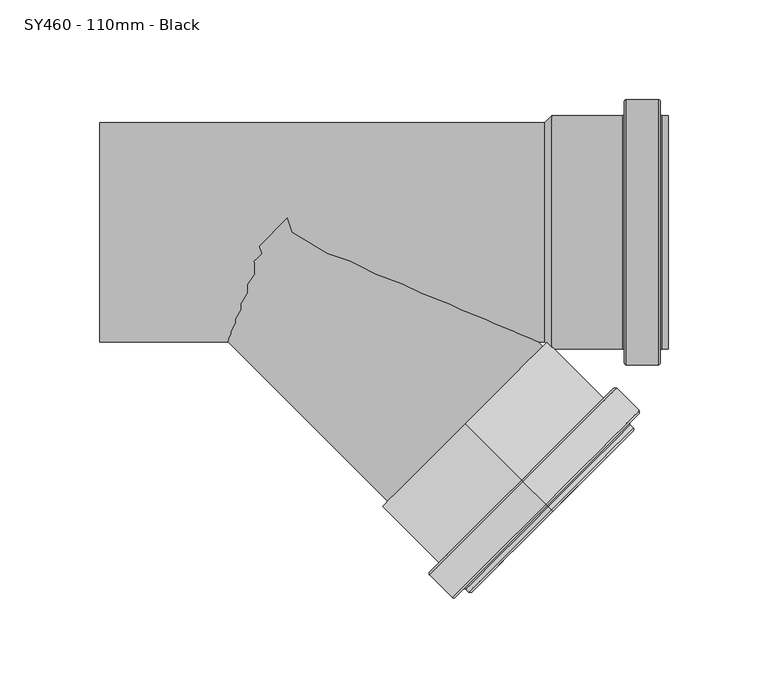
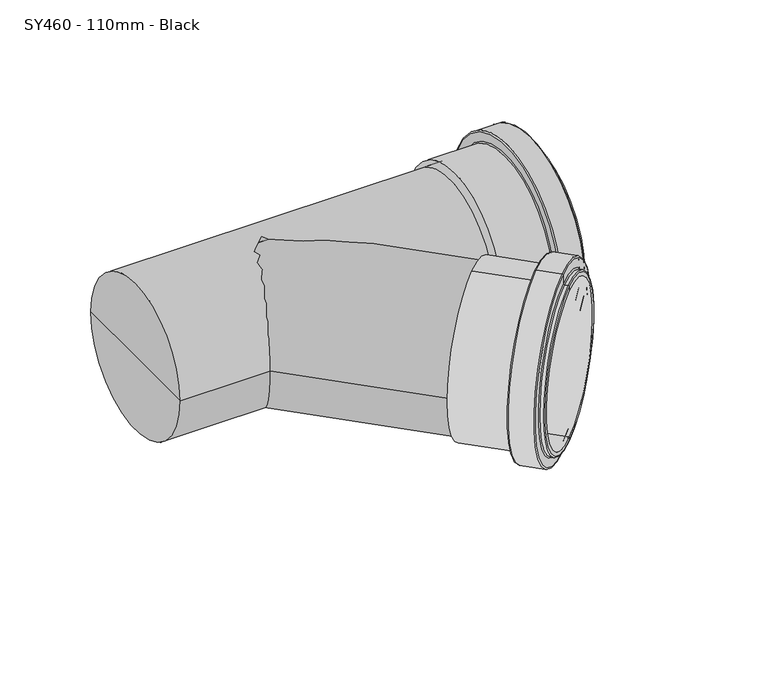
"""IFC4 building model written with IfcOpenShell, lengths in millimetres: pipe fitting geometry, MarleyPlumbingAndDrainage_PipeFitting_EqualBranch45PushFit : SY460 - 110mm - Black."""

import ifcopenshell
import ifcopenshell.guid

model = None  # the IFC model being written
_history = None  # IfcOwnerHistory: only IFC2X3 demands one
_inside = {}  # id of a spatial element -> (the spatial element, [elements in it])
_under = {}  # id of a project, library or spatial element -> (it, [spatial elements below it])
_declared = {}  # id of a project -> (the project, [libraries it declares])
_typed = {}  # id of a type object -> (the type object, [elements of that type])
_made_of = {}  # id of a material, layer set ... -> (it, [elements and type objects made of it])


def new_model(schema):
    """Start an empty IFC model of exactly this schema.

    Asked for "IFC4X3", IfcOpenShell would pick the latest addendum, in which some entities
    have other attributes; the version numbers below select the first issue.
    IFC2X3 requires an IfcOwnerHistory on every rooted entity: one is made here for all.
    """
    global model, _history
    if schema == "IFC4X3":
        model = ifcopenshell.file(schema_version=(4, 3, 0, 0))
    else:
        model = ifcopenshell.file(schema=schema)
    _inside.clear()
    _under.clear()
    _declared.clear()
    _typed.clear()
    _made_of.clear()
    _history = None
    if model.schema == "IFC2X3":
        org = make("IfcOrganization", Name="unknown")
        user = make(
            "IfcPersonAndOrganization",
            ThePerson=make("IfcPerson", FamilyName="unknown"),
            TheOrganization=org,
        )
        app = make(
            "IfcApplication",
            ApplicationDeveloper=org,
            Version="unknown",
            ApplicationFullName="unknown",
            ApplicationIdentifier="unknown",
        )
        _history = make(
            "IfcOwnerHistory",
            OwningUser=user,
            OwningApplication=app,
            ChangeAction="ADDED",
            CreationDate=0,
        )
    return model


def make(cls, **values):
    """One entity of the class cls with the attributes given. An attribute that is None is left unset."""
    return model.create_entity(
        cls, **{name: value for name, value in values.items() if value is not None}
    )


def rooted(cls, **values):
    """An entity with a GlobalId (a new one), such as an element, a storey or a relation."""
    return make(cls, GlobalId=ifcopenshell.guid.new(), OwnerHistory=_history, **values)


def si_unit(unit_type, name, prefix=None):
    """IfcSIUnit, for example si_unit("LENGTHUNIT", "METRE", prefix="MILLI")."""
    return make("IfcSIUnit", UnitType=unit_type, Prefix=prefix, Name=name)


def assignment(units):
    """IfcUnitAssignment: the units of a project."""
    return None if units is None else make("IfcUnitAssignment", Units=units)


def point(xyz):
    """IfcCartesianPoint."""
    return None if xyz is None else make("IfcCartesianPoint", Coordinates=xyz)


def direction(xyz):
    """IfcDirection."""
    return None if xyz is None else make("IfcDirection", DirectionRatios=xyz)


def frame(location, z_axis=None, x_axis=None):
    """IfcAxis2Placement3D, a coordinate frame: its origin and axes. An axis left out is left unset."""
    return make(
        "IfcAxis2Placement3D",
        Location=point(location),
        Axis=direction(z_axis),
        RefDirection=direction(x_axis),
    )


def frame_2d(location, x_axis=None):
    """IfcAxis2Placement2D, a coordinate frame in the plane: its origin and x axis."""
    return make(
        "IfcAxis2Placement2D", Location=point(location), RefDirection=direction(x_axis)
    )


def origin():
    """The frame at (0, 0, 0) with its axes left unset."""
    return frame((0.0, 0.0, 0.0))


def origin_2d():
    """The frame at (0, 0) in the plane with its x axis left unset."""
    return frame_2d((0.0, 0.0))


def place(relative_to, where):
    """IfcLocalPlacement: puts the frame where relative to a parent placement (None: the world)."""
    return make(
        "IfcLocalPlacement", PlacementRelTo=relative_to, RelativePlacement=where
    )


def context(
    kind, dimensions, precision=None, world=None, true_north=None, identifier=None
):
    """IfcGeometricRepresentationContext, for example the 3D "Model" context."""
    return make(
        "IfcGeometricRepresentationContext",
        ContextIdentifier=identifier,
        ContextType=kind,
        CoordinateSpaceDimension=dimensions,
        Precision=precision,
        WorldCoordinateSystem=world,
        TrueNorth=true_north,
    )


def project(units=None, contexts=None):
    """IfcProject with its units and contexts."""
    return rooted(
        "IfcProject",
        Name="project",
        RepresentationContexts=contexts,
        UnitsInContext=assignment(units),
    )


def spatial(cls, under=None, at=None, **own):
    """A site, building, storey or space (cls), placed at a placement, below another one or the project."""
    s = rooted(cls, ObjectPlacement=at, **own)
    if under is not None:
        _under.setdefault(under.id(), (under, []))[1].append(s)
    return s


def polyline(points):
    """IfcPolyline through the points."""
    return make("IfcPolyline", Points=[point(p) for p in points])


def circle_curve(where, radius):
    """IfcCircle in the frame where."""
    return make("IfcCircle", Position=where, Radius=radius)


def ellipse_curve(where, semi_axis1, semi_axis2):
    """IfcEllipse in the frame where."""
    return make(
        "IfcEllipse", Position=where, SemiAxis1=semi_axis1, SemiAxis2=semi_axis2
    )


def trimmed(basis, trim1, trim2, sense, master):
    """IfcTrimmedCurve: the piece of a basis curve between two trims."""
    return make(
        "IfcTrimmedCurve",
        BasisCurve=basis,
        Trim1=trim1,
        Trim2=trim2,
        SenseAgreement=sense,
        MasterRepresentation=master,
    )


def segment(curve, same_sense, transition):
    """IfcCompositeCurveSegment."""
    return make(
        "IfcCompositeCurveSegment",
        Transition=transition,
        SameSense=same_sense,
        ParentCurve=curve,
    )


def composite_curve(segments, self_intersect=None):
    """IfcCompositeCurve: segments joined end to end."""
    return make("IfcCompositeCurve", Segments=segments, SelfIntersect=self_intersect)


def outline(outer, holes=None, kind="AREA"):
    """IfcArbitraryClosedProfileDef: a profile drawn as a closed curve; with holes, ...WithVoids."""
    if holes is None:
        return make("IfcArbitraryClosedProfileDef", ProfileType=kind, OuterCurve=outer)
    return make(
        "IfcArbitraryProfileDefWithVoids",
        ProfileType=kind,
        OuterCurve=outer,
        InnerCurves=holes,
    )


def extrude(swept, where, along, depth):
    """IfcExtrudedAreaSolid: the profile swept, set in the frame where, extruded along a direction by depth."""
    return make(
        "IfcExtrudedAreaSolid",
        SweptArea=swept,
        Position=where,
        ExtrudedDirection=direction(along),
        Depth=depth,
    )


def shape(context_of_items, identifier, shape_type, items):
    """IfcShapeRepresentation: the items that make up one representation, for example the "Body"."""
    return make(
        "IfcShapeRepresentation",
        ContextOfItems=context_of_items,
        RepresentationIdentifier=identifier,
        RepresentationType=shape_type,
        Items=items,
    )


def source(mapping_origin, context_of_items, identifier, shape_type, items):
    """IfcRepresentationMap: a shape defined once, which mapped items show again and again."""
    return make(
        "IfcRepresentationMap",
        MappingOrigin=mapping_origin,
        MappedRepresentation=shape(context_of_items, identifier, shape_type, items),
    )


def transform(
    local_origin,
    x_axis=None,
    y_axis=None,
    z_axis=None,
    scale=None,
    scale2=None,
    scale3=None,
    uniform=True,
):
    """IfcCartesianTransformationOperator3D, or its non-uniform kind. x_axis, y_axis, z_axis: its Axis1, 2, 3."""
    if uniform:
        return make(
            "IfcCartesianTransformationOperator3D",
            Axis1=direction(x_axis),
            Axis2=direction(y_axis),
            LocalOrigin=point(local_origin),
            Scale=scale,
            Axis3=direction(z_axis),
        )
    return make(
        "IfcCartesianTransformationOperator3DnonUniform",
        Axis1=direction(x_axis),
        Axis2=direction(y_axis),
        LocalOrigin=point(local_origin),
        Scale=scale,
        Axis3=direction(z_axis),
        Scale2=scale2,
        Scale3=scale3,
    )


def mapped(mapping_source, mapping_target):
    """IfcMappedItem: shows the shape of a source again, moved by a transform."""
    return make(
        "IfcMappedItem", MappingSource=mapping_source, MappingTarget=mapping_target
    )


def made_of(thing, what):
    """Note that an element or type object is made of a material, layer set ...; save() writes the relation."""
    if what is not None:
        _made_of.setdefault(what.id(), (what, []))[1].append(thing)
    return thing


def element(
    cls,
    number,
    at=None,
    inside=None,
    cuts=None,
    type_object=None,
    material=None,
    context=None,
    identifier="Body",
    shape_type=None,
    held_by="IfcProductDefinitionShape",
    body=None,
    shapes=None,
    **own,
):
    """One element of the class cls, such as IfcWall. Its Tag is "e" and its number.

    at: its placement. inside: the storey or other place that contains it. cuts: it is an
    opening in that element (IfcRelVoidsElement). A single representation is given by context,
    identifier, shape_type and body (its items); several are given by shapes. held_by: the class
    of the entity that holds the representations. save() writes the other relations.
    """
    e = rooted(cls, Tag="e%d" % number, ObjectPlacement=at, **own)
    if body is not None:
        shapes = [shape(context, identifier, shape_type, body)]
    if shapes is not None:
        e.Representation = make(held_by, Representations=shapes)
    if inside is not None:
        _inside.setdefault(inside.id(), (inside, []))[1].append(e)
    if cuts is not None:
        rooted(
            "IfcRelVoidsElement", RelatingBuildingElement=cuts, RelatedOpeningElement=e
        )
    if type_object is not None:
        _typed.setdefault(type_object.id(), (type_object, []))[1].append(e)
    return made_of(e, material)


def aggregate(whole, parts):
    """IfcRelAggregates: a whole, such as a stair, and the parts it consists of."""
    return rooted("IfcRelAggregates", RelatingObject=whole, RelatedObjects=parts)


def save(model, path):
    """Write the relations noted so far, then the file.

    IfcRelAggregates (storeys below a building ...), IfcRelContainedInSpatialStructure (elements
    in a storey), IfcRelDefinesByType, IfcRelAssociatesMaterial and IfcRelDeclares: one each for
    every whole, place, type object, material and project.
    """
    for whole, parts in _under.values():
        aggregate(whole, parts)
    for where, things in _inside.values():
        rooted(
            "IfcRelContainedInSpatialStructure",
            RelatedElements=things,
            RelatingStructure=where,
        )
    for kind, things in _typed.values():
        rooted("IfcRelDefinesByType", RelatedObjects=things, RelatingType=kind)
    for what, things in _made_of.values():
        rooted("IfcRelAssociatesMaterial", RelatedObjects=things, RelatingMaterial=what)
    for by, libraries in _declared.values():
        rooted("IfcRelDeclares", RelatingContext=by, RelatedDefinitions=libraries)
    model.write(path)


def plane_surface(at):
    """IfcPlane: the flat surface through the origin of the frame at, square to its z axis."""
    return make("IfcPlane", Position=at)


def cylinder_surface(at, radius):
    """IfcCylindricalSurface: all points at the distance radius from the z axis of the frame at."""
    return make("IfcCylindricalSurface", Position=at, Radius=radius)


def revolved_surface(curve, axis_point, axis_direction):
    """IfcSurfaceOfRevolution: the curve turned about the line through axis_point along axis_direction."""
    return make(
        "IfcSurfaceOfRevolution",
        SweptCurve=make("IfcArbitraryOpenProfileDef", ProfileType="CURVE", Curve=curve),
        AxisPosition=make("IfcAxis1Placement", Location=point(axis_point), Axis=direction(axis_direction)),
    )


def advanced_brep(points, edges, surfaces, faces):
    """IfcAdvancedBrep: a solid bounded by faces that lie on surfaces and meet in shared edges.

    An edge is (start, end): straight between two places in points (the first is 0);
    or (start, end, curve); or (start, end, curve, False) where it runs against its curve.
    A face is (place in surfaces, loops), or (place, loops, False) where it looks against
    its surface's normal. A loop lists edges by number (the first is 1), with a minus sign
    where the edge is run from its end to its start. The first loop is the outer one.
    """
    corners = [point(p) for p in points]
    vertices = [make("IfcVertexPoint", VertexGeometry=c) for c in corners]
    made = []
    for start, end, *more in edges:
        made.append(
            make(
                "IfcEdgeCurve",
                EdgeStart=vertices[start],
                EdgeEnd=vertices[end],
                EdgeGeometry=more[0] if more else make("IfcPolyline", Points=[corners[start], corners[end]]),
                SameSense=more[1] if len(more) > 1 else True,
            )
        )
    hull = []
    for where, loops, *sense in faces:
        bounds = []
        for j, loop in enumerate(loops):
            ring = [make("IfcOrientedEdge", EdgeElement=made[abs(k) - 1], Orientation=k > 0) for k in loop]
            bounds.append(
                make(
                    "IfcFaceOuterBound" if j == 0 else "IfcFaceBound",
                    Bound=make("IfcEdgeLoop", EdgeList=ring),
                    Orientation=True,
                )
            )
        hull.append(make("IfcAdvancedFace", Bounds=bounds, FaceSurface=surfaces[where], SameSense=sense[0] if sense else True))
    return make("IfcAdvancedBrep", Outer=make("IfcClosedShell", CfsFaces=hull))


def sy460_110mm_black_cbd33f96(model_context):
    return source(origin(), model_context, "Body", "SolidModel", [
        advanced_brep(
        [(81.3411404, -96.1665222, -58.5), (81.3411404, -96.1665222, 58.5), (81.3411404, -96.1665222, 55.0), (81.3411404, -96.1665222, -55.0), (109.6254117, -124.4507935, -58.5), (109.6254117, -124.4507935, 58.5), (109.6254117, -124.4507935, -65.5), (109.6254117, -124.4507935, 65.5), (121.6462269, -136.4716088, -66.5), (121.6462269, -136.4716088, 66.5), (110.3325184, -125.1579003, 66.5), (110.3325184, -125.1579003, -66.5), (122.3533337, -137.1787156, -59.5), (122.3533337, -137.1787156, 59.5), (122.3533337, -137.1787156, 65.5), (122.3533337, -137.1787156, -65.5), (124.4746541, -139.3000359, -58.5), (124.4746541, -139.3000359, 58.5), (123.0604405, -137.8858223, 58.5), (123.0604405, -137.8858223, -58.5), (125.1817609, -140.0071427, -55.0), (125.1817609, -140.0071427, 55.0), (125.1817609, -140.0071427, 57.5), (125.1817609, -140.0071427, -57.5)],
        [
            (0, 1, circle_curve(frame((81.3411404, -96.1665222, 0.0), z_axis=(-0.7071067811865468, 0.7071067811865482, 0.0), x_axis=(0.0, 0.0, 1.0000000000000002)), 58.5)),
            (1, 2),
            (2, 3, circle_curve(frame((81.3411404, -96.1665222, 0.0), z_axis=(0.7071067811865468, -0.7071067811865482, 0.0), x_axis=(0.0, 0.0, 1.0000000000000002)), 55.0)),
            (3, 0),
            (1, 0, circle_curve(frame((81.3411404, -96.1665222, 0.0), z_axis=(-0.7071067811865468, 0.7071067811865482, 0.0), x_axis=(0.0, 0.0, 1.0000000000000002)), 58.5)),
            (3, 2, circle_curve(frame((81.3411404, -96.1665222, 0.0), z_axis=(0.7071067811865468, -0.7071067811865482, 0.0), x_axis=(0.0, 0.0, 1.0000000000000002)), 55.0)),
            (4, 5, circle_curve(frame((109.6254117, -124.4507935, 0.0), z_axis=(-0.7071067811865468, 0.7071067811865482, 0.0), x_axis=(0.0, 0.0, 1.0000000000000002)), 58.5)),
            (5, 1),
            (0, 4),
            (5, 4, circle_curve(frame((109.6254117, -124.4507935, 0.0), z_axis=(-0.7071067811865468, 0.7071067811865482, 0.0), x_axis=(0.0, 0.0, 1.0000000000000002)), 58.5)),
            (6, 7, circle_curve(frame((109.6254117, -124.4507935, 0.0), z_axis=(-0.7071067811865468, 0.7071067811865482, 0.0), x_axis=(0.0, 0.0, 1.0000000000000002)), 65.5)),
            (7, 5),
            (4, 6),
            (7, 6, circle_curve(frame((109.6254117, -124.4507935, 0.0), z_axis=(-0.7071067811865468, 0.7071067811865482, 0.0), x_axis=(0.0, 0.0, 1.0000000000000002)), 65.5)),
            (8, 9, circle_curve(frame((121.6462269, -136.4716088, 0.0), z_axis=(-0.7071067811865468, 0.7071067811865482, 0.0), x_axis=(0.0, 0.0, 1.0000000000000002)), 66.5)),
            (9, 10),
            (10, 11, circle_curve(frame((110.3325184, -125.1579003, 0.0), z_axis=(0.7071067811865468, -0.7071067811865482, 0.0), x_axis=(0.0, 0.0, 1.0000000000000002)), 66.5)),
            (11, 8),
            (9, 8, circle_curve(frame((121.6462269, -136.4716088, 0.0), z_axis=(-0.7071067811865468, 0.7071067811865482, 0.0), x_axis=(0.0, 0.0, 1.0000000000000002)), 66.5)),
            (11, 10, circle_curve(frame((110.3325184, -125.1579003, 0.0), z_axis=(0.7071067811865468, -0.7071067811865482, 0.0), x_axis=(0.0, 0.0, 1.0000000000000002)), 66.5)),
            (12, 13, circle_curve(frame((122.3533337, -137.1787156, 0.0), z_axis=(-0.7071067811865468, 0.7071067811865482, 0.0), x_axis=(0.0, 0.0, 1.0000000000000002)), 59.5)),
            (13, 14),
            (14, 15, circle_curve(frame((122.3533337, -137.1787156, 0.0), z_axis=(0.7071067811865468, -0.7071067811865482, 0.0), x_axis=(0.0, 0.0, 1.0000000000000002)), 65.5)),
            (15, 12),
            (13, 12, circle_curve(frame((122.3533337, -137.1787156, 0.0), z_axis=(-0.7071067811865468, 0.7071067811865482, 0.0), x_axis=(0.0, 0.0, 1.0000000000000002)), 59.5)),
            (15, 14, circle_curve(frame((122.3533337, -137.1787156, 0.0), z_axis=(0.7071067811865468, -0.7071067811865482, 0.0), x_axis=(0.0, 0.0, 1.0000000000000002)), 65.5)),
            (16, 17, circle_curve(frame((124.4746541, -139.3000359, 0.0), z_axis=(-0.7071067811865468, 0.7071067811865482, 0.0), x_axis=(0.0, 0.0, 1.0000000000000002)), 58.5)),
            (17, 18),
            (18, 19, circle_curve(frame((123.0604405, -137.8858223, 0.0), z_axis=(0.7071067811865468, -0.7071067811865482, 0.0), x_axis=(0.0, 0.0, 1.0000000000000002)), 58.5)),
            (19, 16),
            (17, 16, circle_curve(frame((124.4746541, -139.3000359, 0.0), z_axis=(-0.7071067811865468, 0.7071067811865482, 0.0), x_axis=(0.0, 0.0, 1.0000000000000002)), 58.5)),
            (19, 18, circle_curve(frame((123.0604405, -137.8858223, 0.0), z_axis=(0.7071067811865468, -0.7071067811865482, 0.0), x_axis=(0.0, 0.0, 1.0000000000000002)), 58.5)),
            (20, 21, circle_curve(frame((125.1817609, -140.0071427, 0.0), z_axis=(-0.7071067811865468, 0.7071067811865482, 0.0), x_axis=(0.0, 0.0, 1.0000000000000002)), 55.0)),
            (21, 22),
            (22, 23, circle_curve(frame((125.1817609, -140.0071427, 0.0), z_axis=(0.7071067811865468, -0.7071067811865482, 0.0), x_axis=(0.0, 0.0, 1.0000000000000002)), 57.5)),
            (23, 20),
            (21, 20, circle_curve(frame((125.1817609, -140.0071427, 0.0), z_axis=(-0.7071067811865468, 0.7071067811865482, 0.0), x_axis=(0.0, 0.0, 1.0000000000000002)), 55.0)),
            (23, 22, circle_curve(frame((125.1817609, -140.0071427, 0.0), z_axis=(0.7071067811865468, -0.7071067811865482, 0.0), x_axis=(0.0, 0.0, 1.0000000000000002)), 57.5)),
            (2, 21),
            (20, 3),
            (10, 7, circle_curve(frame((110.3325184, -125.1579003, 65.5), z_axis=(-0.7071067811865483, -0.7071067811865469, 0.0), x_axis=(0.49999999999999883, -0.49999999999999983, 0.7071067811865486)), 1.0)),
            (6, 11, circle_curve(frame((110.3325184, -125.1579003, -65.5), z_axis=(-0.7071067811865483, -0.7071067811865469, 0.0), x_axis=(0.5000000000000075, -0.5000000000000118, -0.7071067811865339)), 1.0)),
            (14, 9, circle_curve(frame((121.6462269, -136.4716088, 65.5), z_axis=(-0.7071067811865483, -0.7071067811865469, 0.0), x_axis=(0.49999999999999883, -0.49999999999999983, 0.7071067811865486)), 1.0)),
            (8, 15, circle_curve(frame((121.6462269, -136.4716088, -65.5), z_axis=(-0.7071067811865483, -0.7071067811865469, 0.0), x_axis=(0.5000000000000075, -0.5000000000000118, -0.7071067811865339)), 1.0)),
            (18, 13, circle_curve(frame((123.0604405, -137.8858223, 59.5), z_axis=(0.7071067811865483, 0.7071067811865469, 0.0), x_axis=(0.49999999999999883, -0.49999999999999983, 0.7071067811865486)), 1.0)),
            (12, 19, circle_curve(frame((123.0604405, -137.8858223, -59.5), z_axis=(0.7071067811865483, 0.7071067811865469, 0.0), x_axis=(0.5000000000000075, -0.5000000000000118, -0.7071067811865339)), 1.0)),
            (22, 17, circle_curve(frame((124.4746541, -139.3000359, 57.5), z_axis=(-0.7071067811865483, -0.7071067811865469, 0.0), x_axis=(0.49999999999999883, -0.49999999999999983, 0.7071067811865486)), 1.0)),
            (16, 23, circle_curve(frame((124.4746541, -139.3000359, -57.5), z_axis=(-0.7071067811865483, -0.7071067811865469, 0.0), x_axis=(0.5000000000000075, -0.5000000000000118, -0.7071067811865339)), 1.0)),
        ],
        [
            plane_surface(frame((81.3411404, -96.1665222, 0.0), z_axis=(-0.7071067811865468, 0.7071067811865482, 0.0), x_axis=(0.0, 0.0, 1.0))),
            cylinder_surface(frame((159.8299931, -174.655375, 0.0), z_axis=(0.7071067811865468, -0.7071067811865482, 0.0), x_axis=(0.0, 0.0, 1.0000000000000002)), 58.5),
            plane_surface(frame((109.6254117, -124.4507935, 0.0), z_axis=(-0.7071067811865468, 0.7071067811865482, 0.0), x_axis=(0.0, 0.0, 1.0))),
            cylinder_surface(frame((159.8299931, -174.655375, 0.0), z_axis=(0.7071067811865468, -0.7071067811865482, 0.0), x_axis=(0.0, 0.0, 1.0000000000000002)), 66.5),
            plane_surface(frame((122.3533337, -137.1787156, 0.0), z_axis=(0.7071067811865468, -0.7071067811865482, 0.0), x_axis=(0.0, 0.0, 1.0))),
            plane_surface(frame((125.1817609, -140.0071427, 0.0), z_axis=(0.7071067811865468, -0.7071067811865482, 0.0), x_axis=(0.0, 0.0, 1.0))),
            revolved_surface(polyline([(125.18176085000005, -140.00714274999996, 55.000000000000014), (81.34114035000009, -96.16652224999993, 55.000000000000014)]), (159.8299931, -174.655375, 0.0), (0.7071067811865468, -0.7071067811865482, 0.0)),
            revolved_surface(trimmed(ellipse_curve(frame((110.3325184, -125.1579003, 65.5), z_axis=(0.7071067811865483, 0.7071067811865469, 0.0), x_axis=(0.49999999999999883, -0.49999999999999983, 0.7071067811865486)), 1.0, 1.0), [point((109.6254117, -124.4507935, 65.5))], [point((110.3325184, -125.1579003, 66.5))], True, "CARTESIAN"), (159.8299931, -174.655375, 0.0), (0.7071067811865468, -0.7071067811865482, 0.0)),
            revolved_surface(trimmed(ellipse_curve(frame((110.3325184, -125.1579003, 65.5), z_axis=(0.7071067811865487, 0.7071067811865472, 0.0), x_axis=(0.49999999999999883, -0.49999999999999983, 0.7071067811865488)), 1.0, 1.0), [point((109.6254117, -124.4507935, 65.5))], [point((110.3325184, -125.1579003, 66.5))], True, "CARTESIAN"), (159.8299931, -174.655375, 0.0), (0.7071067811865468, -0.7071067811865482, 0.0)),
            revolved_surface(trimmed(ellipse_curve(frame((121.6462269, -136.4716088, 65.5), z_axis=(0.7071067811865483, 0.7071067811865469, 0.0), x_axis=(0.49999999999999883, -0.49999999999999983, 0.7071067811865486)), 1.0, 1.0), [point((121.6462269, -136.4716088, 66.5))], [point((122.3533337, -137.1787156, 65.5))], True, "CARTESIAN"), (159.8299931, -174.655375, 0.0), (0.7071067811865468, -0.7071067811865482, 0.0)),
            revolved_surface(trimmed(ellipse_curve(frame((121.6462269, -136.4716088, 65.5), z_axis=(0.7071067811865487, 0.7071067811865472, 0.0), x_axis=(0.49999999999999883, -0.49999999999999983, 0.7071067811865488)), 1.0, 1.0), [point((121.6462269, -136.4716088, 66.5))], [point((122.3533337, -137.1787156, 65.5))], True, "CARTESIAN"), (159.8299931, -174.655375, 0.0), (0.7071067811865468, -0.7071067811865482, 0.0)),
            revolved_surface(trimmed(ellipse_curve(frame((123.0604405, -137.8858223, 59.5), z_axis=(-0.7071067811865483, -0.7071067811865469, 0.0), x_axis=(0.49999999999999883, -0.49999999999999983, 0.7071067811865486)), 1.0, 1.0), [point((122.3533337, -137.1787156, 59.5))], [point((123.0604405, -137.8858223, 58.5))], True, "CARTESIAN"), (159.8299931, -174.655375, 0.0), (0.7071067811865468, -0.7071067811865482, 0.0)),
            revolved_surface(trimmed(ellipse_curve(frame((123.0604405, -137.8858223, 59.5), z_axis=(-0.7071067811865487, -0.7071067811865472, 0.0), x_axis=(0.49999999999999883, -0.49999999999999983, 0.7071067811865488)), 1.0, 1.0), [point((122.3533337, -137.1787156, 59.5))], [point((123.0604405, -137.8858223, 58.5))], True, "CARTESIAN"), (159.8299931, -174.655375, 0.0), (0.7071067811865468, -0.7071067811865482, 0.0)),
            revolved_surface(trimmed(ellipse_curve(frame((124.4746541, -139.3000359, 57.5), z_axis=(0.7071067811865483, 0.7071067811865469, 0.0), x_axis=(0.49999999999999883, -0.49999999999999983, 0.7071067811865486)), 1.0, 1.0), [point((124.4746541, -139.3000359, 58.5))], [point((125.1817609, -140.0071427, 57.5))], True, "CARTESIAN"), (159.8299931, -174.655375, 0.0), (0.7071067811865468, -0.7071067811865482, 0.0)),
            revolved_surface(trimmed(ellipse_curve(frame((124.4746541, -139.3000359, 57.5), z_axis=(0.7071067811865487, 0.7071067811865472, 0.0), x_axis=(0.49999999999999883, -0.49999999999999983, 0.7071067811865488)), 1.0, 1.0), [point((124.4746541, -139.3000359, 58.5))], [point((125.1817609, -140.0071427, 57.5))], True, "CARTESIAN"), (159.8299931, -174.655375, 0.0), (0.7071067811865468, -0.7071067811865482, 0.0)),
        ],
        [
            (0, [[1, 2, 3, 4]]),
            (0, [[5, -4, 6, -2]]),
            (1, [[7, 8, -1, 9]]),
            (1, [[10, -9, -5, -8]]),
            (2, [[11, 12, -7, 13]]),
            (2, [[14, -13, -10, -12]]),
            (3, [[15, 16, 17, 18]]),
            (3, [[19, -18, 20, -16]]),
            (4, [[21, 22, 23, 24]]),
            (4, [[25, -24, 26, -22]]),
            (1, [[27, 28, 29, 30]]),
            (1, [[31, -30, 32, -28]]),
            (5, [[33, 34, 35, 36]]),
            (5, [[37, -36, 38, -34]]),
            (6, [[-3, 39, -33, 40]]),
            (6, [[-6, -40, -37, -39]]),
            (7, [[-17, 41, -11, 42]]),
            (8, [[-20, -42, -14, -41]]),
            (9, [[-23, 43, -15, 44]]),
            (10, [[-26, -44, -19, -43]]),
            (11, [[-29, 45, -21, 46]]),
            (12, [[-32, -46, -25, -45]]),
            (13, [[-35, 47, -27, 48]]),
            (14, [[-38, -48, -31, -47]]),
        ],
    ),
        extrude(outline(composite_curve([segment(trimmed(circle_curve(origin_2d(), 55.0), [point((0.0, -55.0))], [point((0.0, 55.0))], False, "CARTESIAN"), True, "CONTINUOUS"), segment(trimmed(circle_curve(origin_2d(), 55.0), [point((0.0, 55.0))], [point((0.0, -55.0))], False, "CARTESIAN"), True, "CONTINUOUS")], self_intersect=False)), frame((81.3411404, -96.1665222, 0.0), z_axis=(-0.7071067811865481, 0.7071067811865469, 0.0), x_axis=(0.0, 0.0, 1.0)), (0.0, 0.0, 1.0), 136.0),
        advanced_brep(
        [(180.1746182, -58.5, 0.0), (180.1746182, 58.5, 0.0), (183.1746182, 58.5, 0.0), (183.1746182, -58.5, 0.0), (179.1746182, -65.5, 0.0), (179.1746182, 65.5, 0.0), (179.1746182, 59.5, 0.0), (179.1746182, -59.5, 0.0), (162.1746182, -66.5, 0.0), (162.1746182, 66.5, 0.0), (178.1746182, 66.5, 0.0), (178.1746182, -66.5, 0.0), (161.1746182, -59.5, 0.0), (161.1746182, 59.5, 0.0), (161.1746182, 65.5, 0.0), (161.1746182, -65.5, 0.0), (124.6746182, -58.5, 0.0), (124.6746182, 58.5, 0.0), (160.1746182, 58.5, 0.0), (160.1746182, -58.5, 0.0), (121.1746182, -55.0, 0.0), (121.1746182, 55.0, 0.0), (-101.8253818, -55.0, 0.0), (-101.8253818, 55.0, 0.0), (-101.8253818, 0.0, 0.0), (124.6746182, -55.0, 0.0), (124.6746182, 55.0, 0.0), (124.6746182, 0.0, 0.0), (183.1746182, -55.0, 0.0), (183.1746182, 55.0, 0.0)],
        [
            (0, 1, circle_curve(frame((180.1746182, 0.0, 0.0), z_axis=(1.0, 0.0, 0.0), x_axis=(0.0, 1.0, 0.0)), 58.5)),
            (1, 2),
            (2, 3, circle_curve(frame((183.1746182, 0.0, 0.0), z_axis=(-1.0, 0.0, 0.0), x_axis=(0.0, 1.0, 0.0)), 58.5)),
            (3, 0),
            (1, 0, circle_curve(frame((180.1746182, 0.0, 0.0), z_axis=(1.0, 0.0, 0.0), x_axis=(0.0, 1.0, 0.0)), 58.5)),
            (3, 2, circle_curve(frame((183.1746182, 0.0, 0.0), z_axis=(-1.0, 0.0, 0.0), x_axis=(0.0, 1.0, 0.0)), 58.5)),
            (4, 5, circle_curve(frame((179.1746182, 0.0, 0.0), z_axis=(1.0, 0.0, 0.0), x_axis=(0.0, 1.0, 0.0)), 65.5)),
            (5, 6),
            (6, 7, circle_curve(frame((179.1746182, 0.0, 0.0), z_axis=(-1.0, 0.0, 0.0), x_axis=(0.0, 1.0, 0.0)), 59.5)),
            (7, 4),
            (5, 4, circle_curve(frame((179.1746182, 0.0, 0.0), z_axis=(1.0, 0.0, 0.0), x_axis=(0.0, 1.0, 0.0)), 65.5)),
            (7, 6, circle_curve(frame((179.1746182, 0.0, 0.0), z_axis=(-1.0, 0.0, 0.0), x_axis=(0.0, 1.0, 0.0)), 59.5)),
            (8, 9, circle_curve(frame((162.1746182, 0.0, 0.0), z_axis=(1.0, 0.0, 0.0), x_axis=(0.0, 1.0, 0.0)), 66.5)),
            (9, 10),
            (10, 11, circle_curve(frame((178.1746182, 0.0, 0.0), z_axis=(-1.0, 0.0, 0.0), x_axis=(0.0, 1.0, 0.0)), 66.5)),
            (11, 8),
            (9, 8, circle_curve(frame((162.1746182, 0.0, 0.0), z_axis=(1.0, 0.0, 0.0), x_axis=(0.0, 1.0, 0.0)), 66.5)),
            (11, 10, circle_curve(frame((178.1746182, 0.0, 0.0), z_axis=(-1.0, 0.0, 0.0), x_axis=(0.0, 1.0, 0.0)), 66.5)),
            (12, 13, circle_curve(frame((161.1746182, 0.0, 0.0), z_axis=(1.0, 0.0, 0.0), x_axis=(0.0, 1.0, 0.0)), 59.5)),
            (13, 14),
            (14, 15, circle_curve(frame((161.1746182, 0.0, 0.0), z_axis=(-1.0, 0.0, 0.0), x_axis=(0.0, 1.0, 0.0)), 65.5)),
            (15, 12),
            (13, 12, circle_curve(frame((161.1746182, 0.0, 0.0), z_axis=(1.0, 0.0, 0.0), x_axis=(0.0, 1.0, 0.0)), 59.5)),
            (15, 14, circle_curve(frame((161.1746182, 0.0, 0.0), z_axis=(-1.0, 0.0, 0.0), x_axis=(0.0, 1.0, 0.0)), 65.5)),
            (16, 17, circle_curve(frame((124.6746182, 0.0, 0.0), z_axis=(1.0, 0.0, 0.0), x_axis=(0.0, 1.0, 0.0)), 58.5)),
            (17, 18),
            (18, 19, circle_curve(frame((160.1746182, 0.0, 0.0), z_axis=(-1.0, 0.0, 0.0), x_axis=(0.0, 1.0, 0.0)), 58.5)),
            (19, 16),
            (17, 16, circle_curve(frame((124.6746182, 0.0, 0.0), z_axis=(1.0, 0.0, 0.0), x_axis=(0.0, 1.0, 0.0)), 58.5)),
            (19, 18, circle_curve(frame((160.1746182, 0.0, 0.0), z_axis=(-1.0, 0.0, 0.0), x_axis=(0.0, 1.0, 0.0)), 58.5)),
            (20, 21, circle_curve(frame((121.1746182, 0.0, 0.0), z_axis=(1.0, 0.0, 0.0), x_axis=(0.0, 1.0, 0.0)), 55.0)),
            (21, 17),
            (16, 20),
            (21, 20, circle_curve(frame((121.1746182, 0.0, 0.0), z_axis=(1.0, 0.0, 0.0), x_axis=(0.0, 1.0, 0.0)), 55.0)),
            (22, 23, circle_curve(frame((-101.8253818, 0.0, 0.0), z_axis=(1.0, 0.0, 0.0), x_axis=(0.0, 1.0, 0.0)), 55.0)),
            (23, 21),
            (20, 22),
            (23, 22, circle_curve(frame((-101.8253818, 0.0, 0.0), z_axis=(1.0, 0.0, 0.0), x_axis=(0.0, 1.0, 0.0)), 55.0)),
            (24, 23),
            (22, 24),
            (25, 26, circle_curve(frame((124.6746182, 0.0, 0.0), z_axis=(1.0, 0.0, 0.0), x_axis=(0.0, 1.0, 0.0)), 55.0)),
            (26, 27),
            (27, 25),
            (26, 25, circle_curve(frame((124.6746182, 0.0, 0.0), z_axis=(1.0, 0.0, 0.0), x_axis=(0.0, 1.0, 0.0)), 55.0)),
            (28, 29, circle_curve(frame((183.1746182, 0.0, 0.0), z_axis=(1.0, 0.0, 0.0), x_axis=(0.0, 1.0, 0.0)), 55.0)),
            (29, 26),
            (25, 28),
            (29, 28, circle_curve(frame((183.1746182, 0.0, 0.0), z_axis=(1.0, 0.0, 0.0), x_axis=(0.0, 1.0, 0.0)), 55.0)),
            (2, 29),
            (28, 3),
            (6, 1, circle_curve(frame((180.1746182, 59.5, 0.0), z_axis=(0.0, 0.0, 1.0), x_axis=(1.0, 0.0, 0.0)), 1.0)),
            (0, 7, circle_curve(frame((180.1746182, -59.5, 0.0), z_axis=(0.0, 0.0, 1.0), x_axis=(1.0, 0.0, 0.0)), 1.0)),
            (10, 5, circle_curve(frame((178.1746182, 65.5, 0.0), z_axis=(0.0, 0.0, -1.0), x_axis=(1.0, 0.0, 0.0)), 1.0)),
            (4, 11, circle_curve(frame((178.1746182, -65.5, 0.0), z_axis=(0.0, 0.0, -1.0), x_axis=(1.0, 0.0, 0.0)), 1.0)),
            (14, 9, circle_curve(frame((162.1746182, 65.5, 0.0), z_axis=(0.0, 0.0, -1.0), x_axis=(1.0, 0.0, 0.0)), 1.0)),
            (8, 15, circle_curve(frame((162.1746182, -65.5, 0.0), z_axis=(0.0, 0.0, -1.0), x_axis=(1.0, 0.0, 0.0)), 1.0)),
            (18, 13, circle_curve(frame((160.1746182, 59.5, 0.0), z_axis=(0.0, 0.0, 1.0), x_axis=(1.0, 0.0, 0.0)), 1.0)),
            (12, 19, circle_curve(frame((160.1746182, -59.5, 0.0), z_axis=(0.0, 0.0, 1.0), x_axis=(1.0, 0.0, 0.0)), 1.0)),
        ],
        [
            cylinder_surface(frame((1997.0, 0.0, 0.0), z_axis=(-1.0, 0.0, 0.0), x_axis=(0.0, 1.0, 0.0)), 58.5),
            plane_surface(frame((179.1746182, 0.0, 0.0), z_axis=(1.0, 0.0, 0.0), x_axis=(0.0, 1.0, 0.0))),
            cylinder_surface(frame((1997.0, 0.0, 0.0), z_axis=(-1.0, 0.0, 0.0), x_axis=(0.0, 1.0, 0.0)), 66.5),
            plane_surface(frame((161.1746182, 0.0, 0.0), z_axis=(-1.0, 0.0, 0.0), x_axis=(0.0, 1.0, 0.0))),
            revolved_surface(polyline([(124.6746182, 58.5, 0.0), (121.1746182, 55.0, 0.0)]), (1997.0, 0.0, 0.0), (-1.0, 0.0, 0.0)),
            cylinder_surface(frame((1997.0, 0.0, 0.0), z_axis=(-1.0, 0.0, 0.0), x_axis=(0.0, 1.0, 0.0)), 55.0),
            plane_surface(frame((-101.8253818, 0.0, 0.0), z_axis=(-1.0, 0.0, 0.0), x_axis=(0.0, 1.0, 0.0))),
            plane_surface(frame((124.6746182, 0.0, 0.0), z_axis=(1.0, 0.0, 0.0), x_axis=(0.0, 1.0, 0.0))),
            revolved_surface(polyline([(124.67461819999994, 55.0, 0.0), (183.17461819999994, 55.0, 0.0)]), (1997.0, 0.0, 0.0), (-1.0, 0.0, 0.0)),
            plane_surface(frame((183.1746182, 0.0, 0.0), z_axis=(1.0, 0.0, 0.0), x_axis=(0.0, 1.0, 0.0))),
            revolved_surface(trimmed(ellipse_curve(frame((180.1746182, 59.5, 0.0), z_axis=(0.0, 0.0, -1.0), x_axis=(1.0, 0.0, 0.0)), 1.0, 1.0), [point((180.1746182, 58.5, 0.0))], [point((179.1746182, 59.5, 0.0))], True, "CARTESIAN"), (1997.0, 0.0, 0.0), (-1.0, 0.0, 0.0)),
            revolved_surface(trimmed(ellipse_curve(frame((178.1746182, 65.5, 0.0), z_axis=(0.0, 0.0, 1.0), x_axis=(1.0, 0.0, 0.0)), 1.0, 1.0), [point((179.1746182, 65.5, 0.0))], [point((178.1746182, 66.5, 0.0))], True, "CARTESIAN"), (1997.0, 0.0, 0.0), (-1.0, 0.0, 0.0)),
            revolved_surface(trimmed(ellipse_curve(frame((162.1746182, 65.5, 0.0), z_axis=(0.0, 0.0, 1.0), x_axis=(1.0, 0.0, 0.0)), 1.0, 1.0), [point((162.1746182, 66.5, 0.0))], [point((161.1746182, 65.5, 0.0))], True, "CARTESIAN"), (1997.0, 0.0, 0.0), (-1.0, 0.0, 0.0)),
            revolved_surface(trimmed(ellipse_curve(frame((160.1746182, 59.5, 0.0), z_axis=(0.0, 0.0, -1.0), x_axis=(1.0, 0.0, 0.0)), 1.0, 1.0), [point((161.1746182, 59.5, 0.0))], [point((160.1746182, 58.5, 0.0))], True, "CARTESIAN"), (1997.0, 0.0, 0.0), (-1.0, 0.0, 0.0)),
        ],
        [
            (0, [[1, 2, 3, 4]]),
            (0, [[5, -4, 6, -2]]),
            (1, [[7, 8, 9, 10]]),
            (1, [[11, -10, 12, -8]]),
            (2, [[13, 14, 15, 16]]),
            (2, [[17, -16, 18, -14]]),
            (3, [[19, 20, 21, 22]]),
            (3, [[23, -22, 24, -20]]),
            (0, [[25, 26, 27, 28]]),
            (0, [[29, -28, 30, -26]]),
            (4, [[31, 32, -25, 33]]),
            (4, [[34, -33, -29, -32]]),
            (5, [[35, 36, -31, 37]]),
            (5, [[38, -37, -34, -36]]),
            (6, [[39, -35, 40]]),
            (6, [[-40, -38, -39]]),
            (7, [[41, 42, 43]]),
            (7, [[44, -43, -42]]),
            (8, [[45, 46, -41, 47]]),
            (8, [[48, -47, -44, -46]]),
            (9, [[-3, 49, -45, 50]]),
            (9, [[-6, -50, -48, -49]]),
            (10, [[-9, 51, -1, 52]]),
            (10, [[-12, -52, -5, -51]]),
            (11, [[-15, 53, -7, 54]]),
            (11, [[-18, -54, -11, -53]]),
            (12, [[-21, 55, -13, 56]]),
            (12, [[-24, -56, -17, -55]]),
            (13, [[-27, 57, -19, 58]]),
            (13, [[-30, -58, -23, -57]]),
        ],
    ),
    ])


if __name__ == "__main__":
    model = new_model("IFC4")
    model_context = context("Model", 3, world=origin())
    ifc_project = project(units=[si_unit("LENGTHUNIT", "METRE", prefix="MILLI")], contexts=[model_context])
    site = spatial("IfcSite", under=ifc_project)
    building = spatial("IfcBuilding", under=site)
    placement = place(None, origin())
    sy460_110mm_black_shape = sy460_110mm_black_cbd33f96(model_context)
    element("IfcPipeFitting", 1, ObjectType="MarleyPlumbingAndDrainage_PipeFitting_EqualBranch45PushFit : SY460 - 110mm - Black", at=placement, inside=building, context=model_context, shape_type="MappedRepresentation", body=[
        mapped(sy460_110mm_black_shape, transform((0.0, 0.0, 0.0), x_axis=(1.0, 0.0, 0.0), y_axis=(0.0, 1.0, 0.0), z_axis=(0.0, 0.0, 1.0))),
    ])
    save(model, "model.ifc")
